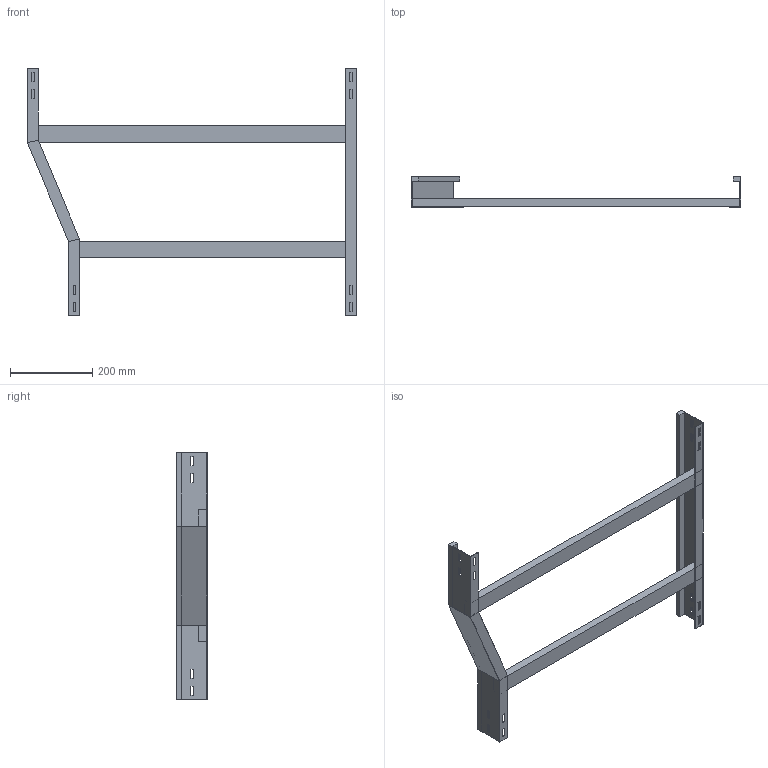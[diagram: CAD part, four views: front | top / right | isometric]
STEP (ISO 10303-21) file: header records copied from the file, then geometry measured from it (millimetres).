
FILE_DESCRIPTION (( 'STEP AP214' ), '1' );
FILE_NAME ('B2X21B7C800XX.step', '2025-09-02T17:17:44', ( '' ), ( '' ), 'SwSTEP 2.0', 'SolidWorks 2023', '' );
FILE_SCHEMA (( 'AUTOMOTIVE_DESIGN' ));
Length unit declared in the file: millimetre
Products named in the file (5): TRAVERSINO_700; SPONDA RID. DX 800-700_H75; B2X21B7C800XX; TRAVERSINO_800; SPONDA DRITTA_H75
Assembly tree (4 placements, depth 2):
  B2X21B7C800XX
    SPONDA RID. DX 800-700_H75
    TRAVERSINO_700
    TRAVERSINO_800
    SPONDA DRITTA_H75
Bounding box: 800 x 75 x 600 mm (x, y, z)
Volume: 1681832 mm3; surface area: 470188 mm2
Topology: 4 solids, 4 shells, 112 faces, 296 edges, 192 vertices
Faces by surface type: plane 112
Entity records: 3590 total; most frequent: CARTESIAN_POINT 607, ORIENTED_EDGE 592, DIRECTION 534, EDGE_CURVE 296, VECTOR 296, LINE 296, VERTEX_POINT 192, EDGE_LOOP 144
